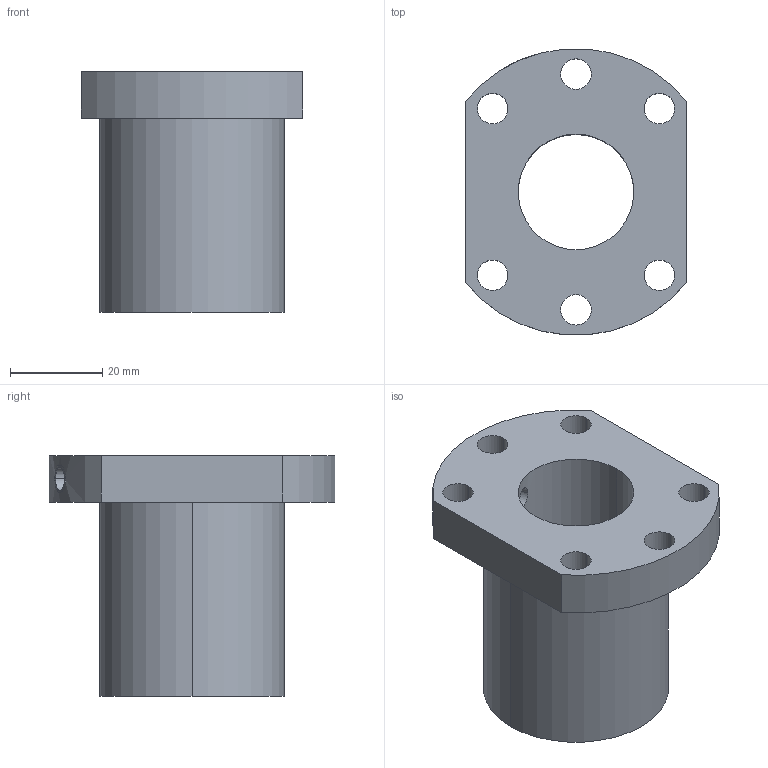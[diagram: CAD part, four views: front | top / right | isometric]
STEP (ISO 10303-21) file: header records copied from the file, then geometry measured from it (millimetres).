
FILE_DESCRIPTION((''),'2;1');
FILE_NAME('A10AN6A1','2018-09-04T',('wayne16941.lin'),(''),'PRO/ENGINEER BY PARAMETRIC TECHNOLOGY CORPORATION, 2012200','PRO/ENGINEER BY PARAMETRIC TECHNOLOGY CORPORATION, 2012200','');
FILE_SCHEMA(('CONFIG_CONTROL_DESIGN'));
Length unit declared in the file: millimetre
Products named in the file (1): A10AN6A1
Bounding box: 48 x 61.8 x 52 mm (x, y, z)
Volume: 51281.3 mm3; surface area: 16792.1 mm2
Topology: 1 solids, 2 shells, 32 faces, 84 edges, 56 vertices
Faces by surface type: cylinder 24, plane 6, cone 2
Entity records: 1167 total; most frequent: CARTESIAN_POINT 270, DIRECTION 186, ORIENTED_EDGE 162, EDGE_CURVE 84, AXIS2_PLACEMENT_3D 77, VERTEX_POINT 56, EDGE_LOOP 50, CIRCLE 44
